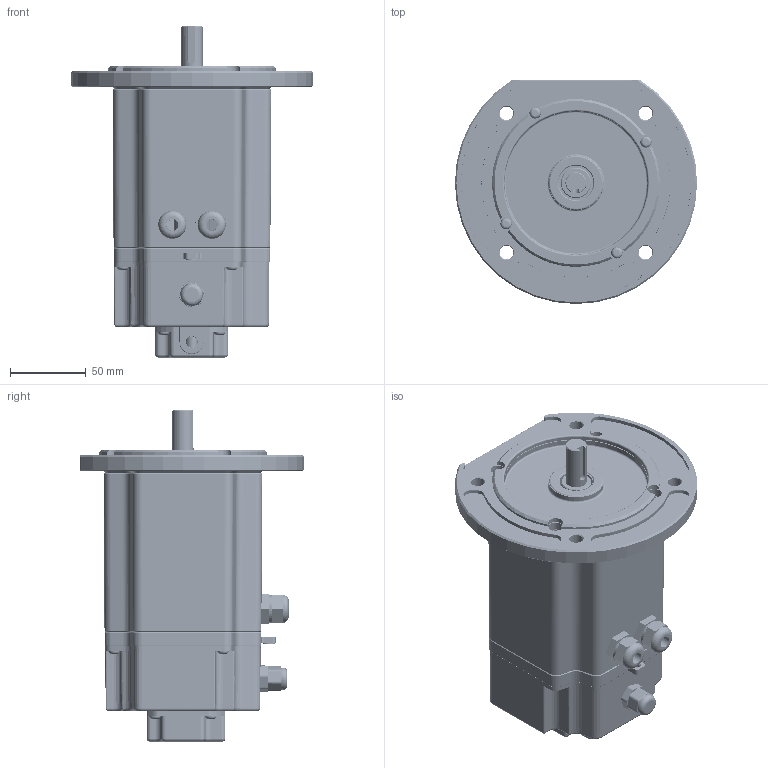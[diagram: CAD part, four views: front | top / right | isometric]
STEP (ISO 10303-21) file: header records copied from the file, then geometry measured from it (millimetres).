
FILE_DESCRIPTION (( 'STEP AP214' ), '1' );
FILE_NAME ('K16¡àK750N¡à-BE.STEP', '2025-02-03T07:01:55', ( 'frvao@naver.com' ), ( '' ), 'SwSTEP 2.0', 'SolidWorks 2022', '' );
FILE_SCHEMA (( 'AUTOMOTIVE_DESIGN' ));
Length unit declared in the file: millimetre
Products named in the file (37): 400W __________A (______)(160913).ipt.STEP.STEP; ______.STEP; S-CORE ASS''''''''Y.iam.STEP.STEP; PCB ASS''''''''Y.iam.STEP.STEP; LEAD BUSH.stp; HALL PCB-RE01(161226).ipt.STEP.STEP; AS 1420 - 1973 - M4 x 8.ipt.STEP-0.STEP; AS 1420 - 1973 - M4 x 8.ipt.STEP-2.STEP; PCB PIN.ipt.STEP.STEP; ______.iam.STEP.STEP; REAR-COVER.ipt.STEP.STEP; K16 R-SHAFT.STEP; KGM IEC FRONT COVER pi160.STEP; AS 1420 - 1973 - M4 x 8.ipt.STEP-1.STEP; ENCODER COVER ASS''Y; ____33.STEP; FRONT-COVER.ipt.STEP.STEP; R-ASS''''''''Y.iam.STEP.STEP; K16¡àK750N¡à-BE; S-CORE.ipt.STEP.STEP; CABLE GRAND.ipt.STEP.STEP; BRAKE COVER DC.STEP; K16¡àK750N¡à-B.STEP; 400W __________ B (______)(160920).ipt.STEP.STEP; だお33; K10__K750N__.STEP.STEP; ENCODER COVER; HALL IC.ipt.STEP.STEP; SHAFT.ipt.STEP.STEP; AS 1420 - 1973 - M4 x 8.ipt.STEP.STEP; MAGNET.ipt.STEP.STEP; BS 290 SKF - SKF 6203-2Z.ipt.STEP.STEP; CORE ASS''''''''Y.iam.STEP.STEP; BS 290 SKF - SKF 6304-2Z.ipt.STEP.STEP; HALL IC HOLDER.ipt.STEP.STEP; M-CASE.ipt.STEP.STEP; SHAFT.STEP.STEP
Assembly tree (207 placements, depth 7):
  K16¡àK750N¡à-BE
    K16¡àK750N¡à-B.STEP
      K10__K750N__.STEP.STEP
        ______.iam.STEP.STEP
          R-ASS''''''''Y.iam.STEP.STEP
            SHAFT.ipt.STEP.STEP
            MAGNET.ipt.STEP.STEP
            BS 290 SKF - SKF 6304-2Z.ipt.STEP.STEP
            BS 290 SKF - SKF 6203-2Z.ipt.STEP.STEP
          CORE ASS''''''''Y.iam.STEP.STEP
            S-CORE ASS''''''''Y.iam.STEP.STEP
              S-CORE.ipt.STEP.STEP  x143
            400W __________A (______)(160913).ipt.STEP.STEP
            400W __________ B (______)(160920).ipt.STEP.STEP
            PCB PIN.ipt.STEP.STEP  x12
          PCB ASS''''''''Y.iam.STEP.STEP
            HALL PCB-RE01(161226).ipt.STEP.STEP
            HALL IC HOLDER.ipt.STEP.STEP  x3
            HALL IC.ipt.STEP.STEP  x3
          M-CASE.ipt.STEP.STEP
          FRONT-COVER.ipt.STEP.STEP
          CABLE GRAND.ipt.STEP.STEP  x2
          REAR-COVER.ipt.STEP.STEP
          AS 1420 - 1973 - M4 x 8.ipt.STEP.STEP
          AS 1420 - 1973 - M4 x 8.ipt.STEP-0.STEP
          AS 1420 - 1973 - M4 x 8.ipt.STEP-1.STEP
          AS 1420 - 1973 - M4 x 8.ipt.STEP-2.STEP  x4
        SHAFT.STEP.STEP
      KGM IEC FRONT COVER pi160.STEP
      ____33.STEP  x6
      K16 R-SHAFT.STEP
      BRAKE COVER DC.STEP
      ______.STEP
    ENCODER COVER ASS''Y
      LEAD BUSH.stp
      ENCODER COVER
    だお33  x6
Bounding box: 160 x 148 x 219.3 mm (x, y, z)
Volume: 1011220.8 mm3; surface area: 1519384.9 mm2
Topology: 203 solids, 203 shells, 36990 faces, 107994 edges, 71523 vertices
Faces by surface type: plane 18408, cylinder 17432, bspline 411, torus 410, cone 241, sphere 88
Entity records: 208993 total; most frequent: CARTESIAN_POINT 65569, ORIENTED_EDGE 29348, DIRECTION 28431, EDGE_CURVE 14674, AXIS2_PLACEMENT_3D 10106, VERTEX_POINT 9409, VECTOR 8219, LINE 8219
